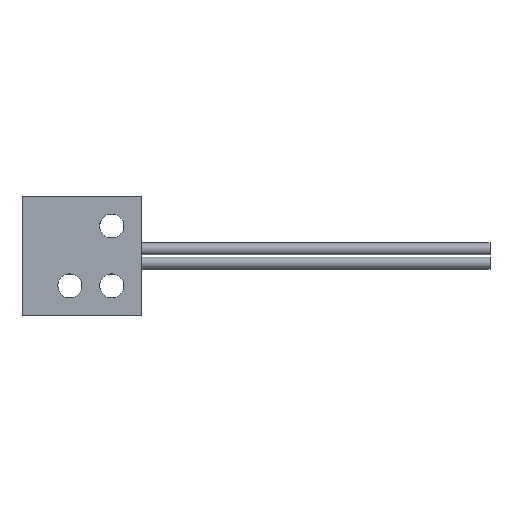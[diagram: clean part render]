
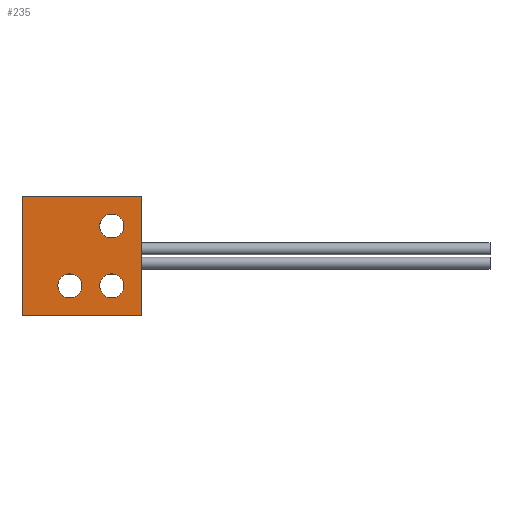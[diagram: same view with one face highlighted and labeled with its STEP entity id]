
A CAD part, top view. The second image highlights one B-rep face of the part: STEP entity #235.
In plain terms, the highlighted planar face has unit normal (0, 0, 1).
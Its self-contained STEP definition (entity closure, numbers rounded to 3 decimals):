
#144=FACE_BOUND('',#424,.T.);
#145=FACE_BOUND('',#425,.T.);
#146=FACE_BOUND('',#426,.T.);
#147=FACE_BOUND('',#427,.T.);
#187=CIRCLE('',#1574,1.);
#189=CIRCLE('',#1577,1.);
#193=CIRCLE('',#1583,1.);
#235=ADVANCED_FACE('',(#144,#145,#146,#147),#308,.T.);
#308=PLANE('',#1586);
#424=EDGE_LOOP('',(#587,#588,#589,#590));
#425=EDGE_LOOP('',(#591));
#426=EDGE_LOOP('',(#592));
#427=EDGE_LOOP('',(#593));
#587=ORIENTED_EDGE('',*,*,#1138,.T.);
#588=ORIENTED_EDGE('',*,*,#1062,.T.);
#589=ORIENTED_EDGE('',*,*,#1127,.T.);
#590=ORIENTED_EDGE('',*,*,#1130,.T.);
#591=ORIENTED_EDGE('',*,*,#1133,.F.);
#592=ORIENTED_EDGE('',*,*,#1131,.F.);
#593=ORIENTED_EDGE('',*,*,#1139,.F.);
#917=VERTEX_POINT('',#2124);
#920=VERTEX_POINT('',#2129);
#984=VERTEX_POINT('',#2259);
#986=VERTEX_POINT('',#2265);
#987=VERTEX_POINT('',#2269);
#989=VERTEX_POINT('',#2274);
#993=VERTEX_POINT('',#2286);
#1062=EDGE_CURVE('',#917,#920,#1270,.T.);
#1127=EDGE_CURVE('',#920,#984,#1304,.T.);
#1130=EDGE_CURVE('',#984,#986,#1307,.T.);
#1131=EDGE_CURVE('',#987,#987,#187,.T.);
#1133=EDGE_CURVE('',#989,#989,#189,.T.);
#1138=EDGE_CURVE('',#986,#917,#1309,.T.);
#1139=EDGE_CURVE('',#993,#993,#193,.T.);
#1270=LINE('',#2130,#1406);
#1304=LINE('',#2260,#1440);
#1307=LINE('',#2266,#1443);
#1309=LINE('',#2283,#1445);
#1406=VECTOR('',#1693,1.);
#1440=VECTOR('',#1791,1.);
#1443=VECTOR('',#1796,1.);
#1445=VECTOR('',#1816,1.);
#1574=AXIS2_PLACEMENT_3D('',#2268,#1799,#1800);
#1577=AXIS2_PLACEMENT_3D('',#2273,#1805,#1806);
#1583=AXIS2_PLACEMENT_3D('',#2285,#1819,#1820);
#1586=AXIS2_PLACEMENT_3D('',#2290,#1825,#1826);
#1693=DIRECTION('',(-1.,0.,0.));
#1791=DIRECTION('',(0.,-1.,0.));
#1796=DIRECTION('',(1.,0.,0.));
#1799=DIRECTION('',(0.,0.,1.));
#1800=DIRECTION('',(1.,0.,0.));
#1805=DIRECTION('',(0.,0.,1.));
#1806=DIRECTION('',(1.,0.,0.));
#1816=DIRECTION('',(0.,1.,0.));
#1819=DIRECTION('',(0.,0.,1.));
#1820=DIRECTION('',(1.,0.,0.));
#1825=DIRECTION('',(0.,0.,1.));
#1826=DIRECTION('',(1.,0.,0.));
#2124=CARTESIAN_POINT('',(29.719,10.039,2.5));
#2129=CARTESIAN_POINT('',(19.719,10.039,2.5));
#2130=CARTESIAN_POINT('',(29.719,10.039,2.5));
#2259=CARTESIAN_POINT('',(19.719,0.039,2.5));
#2260=CARTESIAN_POINT('',(19.719,10.039,2.5));
#2265=CARTESIAN_POINT('',(29.719,0.039,2.5));
#2266=CARTESIAN_POINT('',(19.719,0.039,2.5));
#2268=CARTESIAN_POINT('',(23.719,2.539,2.5));
#2269=CARTESIAN_POINT('',(24.719,2.539,2.5));
#2273=CARTESIAN_POINT('',(27.219,7.539,2.5));
#2274=CARTESIAN_POINT('',(28.219,7.539,2.5));
#2283=CARTESIAN_POINT('',(29.719,5.139,2.5));
#2285=CARTESIAN_POINT('',(27.219,2.539,2.5));
#2286=CARTESIAN_POINT('',(28.219,2.539,2.5));
#2290=CARTESIAN_POINT('',(27.219,7.539,2.5));
